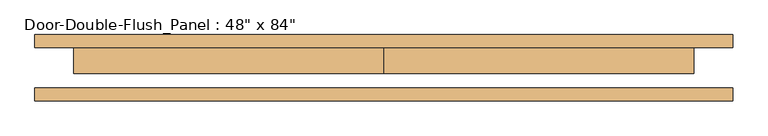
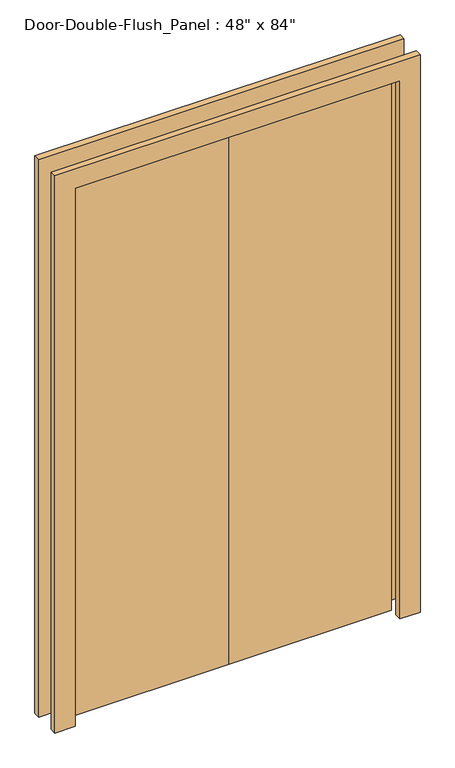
"""IFC4 building model written with IfcOpenShell, lengths in millimetres: door geometry."""

from ifc_helpers import new_model, si_unit, frame, origin, origin_with_axes, place, context, project, spatial, polyline, outline, extrude, source, transform, mapped, element, save


def door_f69827bf(model_context):
    return source(origin(), model_context, "Body", "SweptSolid", [
        extrude(outline(polyline([(2133.6, -609.6), (2133.6, 609.6), (0.0, 609.6), (0.0, 685.8), (2209.8, 685.8), (2209.8, -685.8), (0.0, -685.8), (0.0, -609.6), (2133.6, -609.6)])), frame((0.0, -65.0875, 0.0), z_axis=(0.0, 1.0, 0.0), x_axis=(0.0, 0.0, 1.0)), (0.0, 0.0, 1.0), 25.4),
        extrude(outline(polyline([(2133.6, -609.6), (2133.6, 609.6), (0.0, 609.6), (0.0, 685.8), (2209.8, 685.8), (2209.8, -685.8), (0.0, -685.8), (0.0, -609.6), (2133.6, -609.6)])), frame((0.0, 39.6875, 0.0), z_axis=(0.0, 1.0, 0.0), x_axis=(0.0, 0.0, 1.0)), (0.0, 0.0, 1.0), 25.4),
        extrude(outline(polyline([(0.0, 39.6875), (609.6, 39.6875), (609.6, -11.1125), (0.0, -11.1125), (0.0, 39.6875)])), origin_with_axes(), (0.0, 0.0, 1.0), 2133.6),
        extrude(outline(polyline([(-609.6, 39.6875), (0.0, 39.6875), (0.0, -11.1125), (-609.6, -11.1125), (-609.6, 39.6875)])), origin_with_axes(), (0.0, 0.0, 1.0), 2133.6),
    ])


if __name__ == "__main__":
    model = new_model("IFC4")
    model_context = context("Model", 3, world=origin())
    ifc_project = project(units=[si_unit("LENGTHUNIT", "METRE", prefix="MILLI")], contexts=[model_context])
    site = spatial("IfcSite", under=ifc_project)
    building = spatial("IfcBuilding", under=site)
    placement = place(None, origin())
    door_shape = door_f69827bf(model_context)
    element("IfcDoor", 1, ObjectType="Door-Double-Flush_Panel : 48\" x 84\"", at=placement, inside=building, context=model_context, shape_type="MappedRepresentation", body=[
        mapped(door_shape, transform((0.0, 0.0, 0.0), x_axis=(1.0, 0.0, 0.0), y_axis=(0.0, 1.0, 0.0), z_axis=(0.0, 0.0, 1.0))),
    ])
    save(model, "model.ifc")
